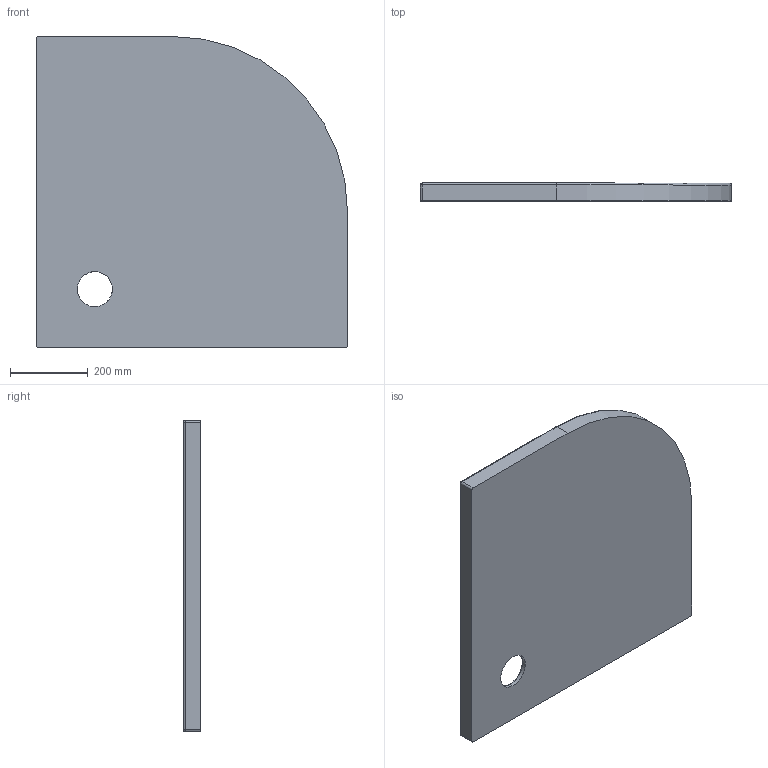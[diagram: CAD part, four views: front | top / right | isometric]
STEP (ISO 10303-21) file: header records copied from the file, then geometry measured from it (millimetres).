
FILE_DESCRIPTION(/* description */ (''),/* implementation_level */ '2;1');
FILE_NAME(/* name */ 'c:\worker\convert-fusion-r09\tmp\job-1\15\output\files\cb7f89c2-cd96-4ff9-a7c6-3b578db3ac29\994680bb-573b-4a49-b178-4e529d68f060.stp',/* time_stamp */ '2020-01-03T08:29:32+00:00',/* author */ (''),/* organization */ (''),/* preprocessor_version */ 'ST-DEVELOPER v18',/* originating_system */ 'Autodesk Translation Framework v8.12.0.6',/* authorisation */ '');
FILE_SCHEMA (('AUTOMOTIVE_DESIGN { 1 0 10303 214 3 1 1 }'));
Length unit declared in the file: millimetre
Products named in the file (1): Merton 80/O
Bounding box: 800 x 45 x 800 mm (x, y, z)
Volume: 17517491.4 mm3; surface area: 1354696.8 mm2
Topology: 1 solids, 1 shells, 47 faces, 100 edges, 56 vertices
Faces by surface type: cylinder 21, plane 11, sphere 6, torus 5, bspline 4
Full cylindrical faces by diameter (mm): 90 x1
Entity records: 1872 total; most frequent: CARTESIAN_POINT 809, DIRECTION 232, ORIENTED_EDGE 202, EDGE_CURVE 101, AXIS2_PLACEMENT_3D 93, VERTEX_POINT 57, EDGE_LOOP 50, FACE_OUTER_BOUND 47
